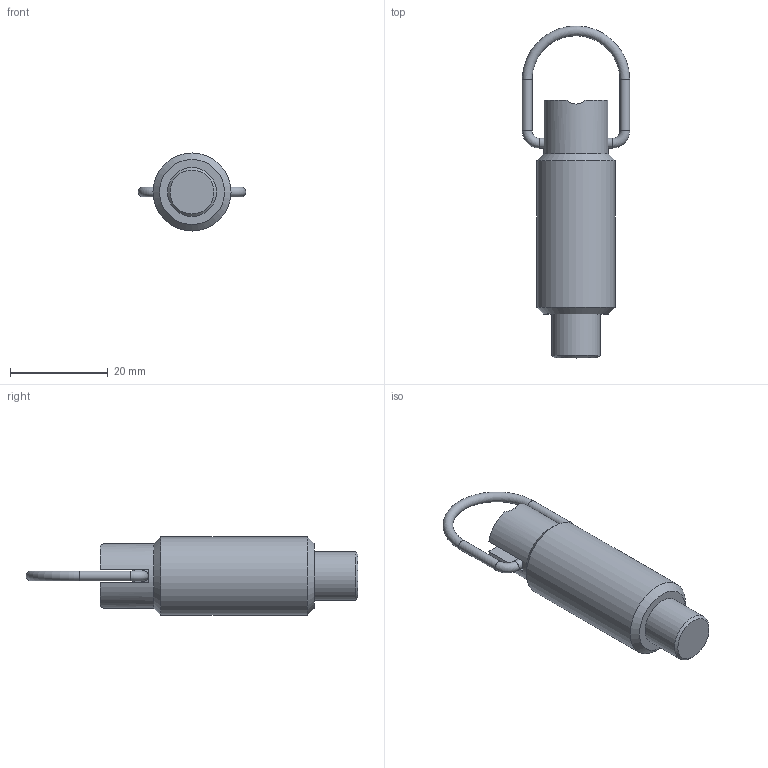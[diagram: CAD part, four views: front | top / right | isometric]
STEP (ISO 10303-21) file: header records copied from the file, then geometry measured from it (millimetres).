
FILE_DESCRIPTION( ( 'STEP AP203' ), '1' );
FILE_NAME( 'C:/Temp/Ganter_Step_05_03_2020/data/3_1/gn_413/gn413_st/gn413_st_c/Steel-Indexing plunger GN 413-10-M16x1,5-C-ST (deactivated).stp', '2020-03-12T09:10:44', ( 'License CC BY-ND 4.0' ), ( 'CADENAS' ), ' ', 'PARTsolutions', ' ' );
FILE_SCHEMA( ( 'CONFIG_CONTROL_DESIGN' ) );
Length unit declared in the file: millimetre
Products named in the file (3): Steel-Indexing plunger GN 413-10-M16x1,5-C-ST (deactivated); _Steel-Indexing plunger  GN 413-10-M16-C-ST (deactivated)_f; _Steel-Indexing plunger GN 413-10-M16-C-ST (deactivated)_b
Assembly tree (2 placements, depth 2):
  Steel-Indexing plunger GN 413-10-M16x1,5-C-ST (deactivated)
    _Steel-Indexing plunger  GN 413-10-M16-C-ST (deactivated)_f
    _Steel-Indexing plunger GN 413-10-M16-C-ST (deactivated)_b
Bounding box: 22 x 68 x 16 mm (x, y, z)
Volume: 7944.8 mm3; surface area: 5414.1 mm2
Topology: 2 solids, 2 shells, 42 faces, 92 edges, 58 vertices
Faces by surface type: plane 18, cylinder 15, cone 6, torus 3
Full cylindrical faces by diameter (mm): 2 x4, 8 x2, 8.3 x1, 10 x2, 11 x2, 13.2 x1, 16 x1
Entity records: 1242 total; most frequent: CARTESIAN_POINT 301, DIRECTION 188, ORIENTED_EDGE 130, AXIS2_PLACEMENT_3D 84, EDGE_LOOP 72, EDGE_CURVE 65, FACE_OUTER_BOUND 58, VERTEX_POINT 53
